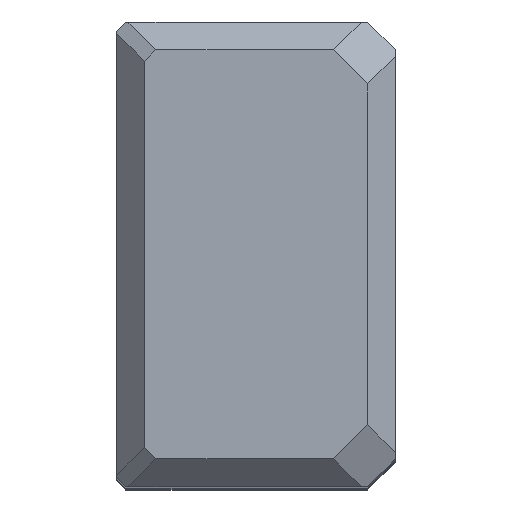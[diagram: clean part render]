
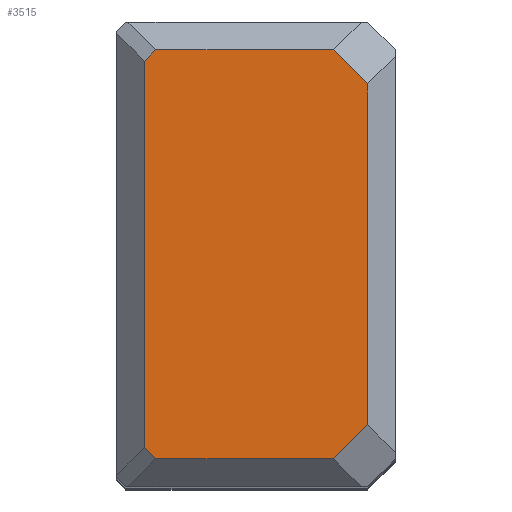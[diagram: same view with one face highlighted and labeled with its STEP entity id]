
A CAD part, top view. The second image highlights one B-rep face of the part: STEP entity #3515.
In plain terms, the highlighted planar face has unit normal (0, 0, 1).
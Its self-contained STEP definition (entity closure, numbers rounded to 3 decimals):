
#95=VERTEX_POINT(' ',#96);
#96=CARTESIAN_POINT('',(-3.,-18.326,0.));
#97=VERTEX_POINT(' ',#98);
#98=CARTESIAN_POINT('',(-6.674,-22.,0.));
#127=VERTEX_POINT(' ',#128);
#128=CARTESIAN_POINT('',(-3.,18.326,0.));
#135=VERTEX_POINT(' ',#136);
#136=CARTESIAN_POINT('',(-6.674,22.,0.));
#165=VERTEX_POINT(' ',#166);
#166=CARTESIAN_POINT('',(-25.775,-22.,0.));
#173=VERTEX_POINT(' ',#174);
#174=CARTESIAN_POINT('',(-27.,-20.775,0.));
#191=VERTEX_POINT(' ',#192);
#192=CARTESIAN_POINT('',(-27.,20.775,0.));
#195=VERTEX_POINT(' ',#196);
#196=CARTESIAN_POINT('',(-25.775,22.,0.));
#680=LINE('',#681,#682);
#681=CARTESIAN_POINT('',(7.663,-7.663,0.));
#682=VECTOR('',#683,1.);
#683=DIRECTION('',(0.707,0.707,0.));
#684=EDGE_CURVE(' ',#95,#97,#680,.F.);
#810=LINE('',#811,#812);
#811=CARTESIAN_POINT('',(-3.,-25.12,0.));
#812=VECTOR('',#813,1.);
#813=DIRECTION('',(0.,1.,0.));
#814=EDGE_CURVE(' ',#95,#127,#810,.T.);
#835=LINE('',#836,#837);
#836=CARTESIAN_POINT('',(7.663,7.663,0.));
#837=VECTOR('',#838,1.);
#838=DIRECTION('',(-0.707,0.707,0.));
#839=EDGE_CURVE(' ',#135,#127,#835,.F.);
#1000=LINE('',#1001,#1002);
#1001=CARTESIAN_POINT('',(-30.12,-22.,0.));
#1002=VECTOR('',#1003,1.);
#1003=DIRECTION('',(1.,0.,0.));
#1004=EDGE_CURVE(' ',#165,#97,#1000,.T.);
#1015=LINE('',#1016,#1017);
#1016=CARTESIAN_POINT('',(-23.888,-23.888,0.));
#1017=VECTOR('',#1018,1.);
#1018=DIRECTION('',(0.707,-0.707,0.));
#1019=EDGE_CURVE(' ',#165,#173,#1015,.F.);
#1107=LINE('',#1108,#1109);
#1108=CARTESIAN_POINT('',(-27.,-25.12,0.));
#1109=VECTOR('',#1110,1.);
#1110=DIRECTION('',(0.,1.,0.));
#1111=EDGE_CURVE(' ',#173,#191,#1107,.T.);
#1112=LINE('',#1113,#1114);
#1113=CARTESIAN_POINT('',(-23.888,23.888,0.));
#1114=VECTOR('',#1115,1.);
#1115=DIRECTION('',(-0.707,-0.707,0.));
#1116=EDGE_CURVE(' ',#191,#195,#1112,.F.);
#1117=LINE('',#1118,#1119);
#1118=CARTESIAN_POINT('',(-30.12,22.,0.));
#1119=VECTOR('',#1120,1.);
#1120=DIRECTION('',(1.,0.,0.));
#1121=EDGE_CURVE(' ',#135,#195,#1117,.F.);
#3500=ORIENTED_EDGE('',*,*,#1116,.F.);
#3501=ORIENTED_EDGE('',*,*,#1111,.F.);
#3502=ORIENTED_EDGE('',*,*,#1019,.F.);
#3503=ORIENTED_EDGE('',*,*,#1004,.T.);
#3504=ORIENTED_EDGE('',*,*,#684,.F.);
#3505=ORIENTED_EDGE('',*,*,#814,.T.);
#3506=ORIENTED_EDGE('',*,*,#839,.F.);
#3507=ORIENTED_EDGE('',*,*,#1121,.T.);
#3508=EDGE_LOOP('',(#3500,#3501,#3502,#3503,#3504,#3505,#3506,#3507));
#3509=FACE_OUTER_BOUND('',#3508,.T.);
#3510=PLANE('',#3511);
#3511=AXIS2_PLACEMENT_3D('',#3512,#3513,#3514);
#3512=CARTESIAN_POINT('',(-27.,0.,0.));
#3513=DIRECTION('',(0.,0.,1.));
#3514=DIRECTION('',(1.,0.,0.));
#3515=ADVANCED_FACE('',(#3509),#3510,.T.);
